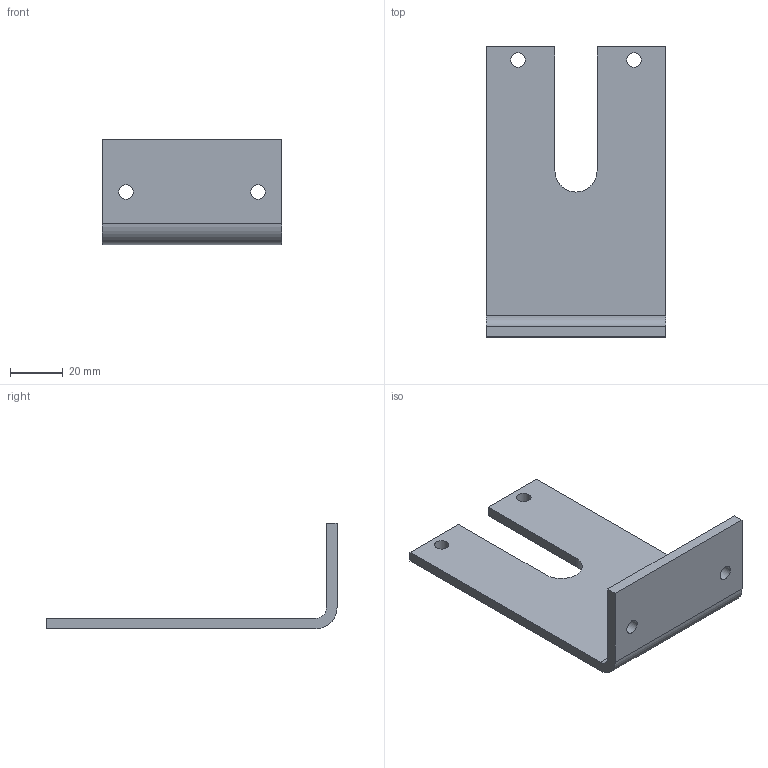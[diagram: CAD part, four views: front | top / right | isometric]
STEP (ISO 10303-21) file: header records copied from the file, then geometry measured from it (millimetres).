
FILE_DESCRIPTION(('STEP AP214'), '1');
FILE_NAME('Skoba_S1', '2014-12-05T09:08:15', ('Ìèøèí Ñ.À.'), ('ÎÎÎ "ÝËÜÑÒÅÐ Ãàçýëåêòðîíèêà"'), 'ASCON STEP Converter 1.3', 'ASCON Math Kernel', '');
FILE_SCHEMA(('AUTOMOTIVE_DESIGN { 1 0 10303 214 3 1 1}'));
Length unit declared in the file: millimetre
Products named in the file (1): 8
Bounding box: 68 x 110 x 40 mm (x, y, z)
Volume: 35221.3 mm3; surface area: 19991 mm2
Topology: 1 solids, 1 shells, 18 faces, 48 edges, 32 vertices
Faces by surface type: plane 11, cylinder 7
Full cylindrical faces by diameter (mm): 5.5 x4
Entity records: 621 total; most frequent: DIRECTION 100, CARTESIAN_POINT 99, ORIENTED_EDGE 96, EDGE_CURVE 48, LINE 34, VECTOR 34, AXIS2_PLACEMENT_3D 33, VERTEX_POINT 32
